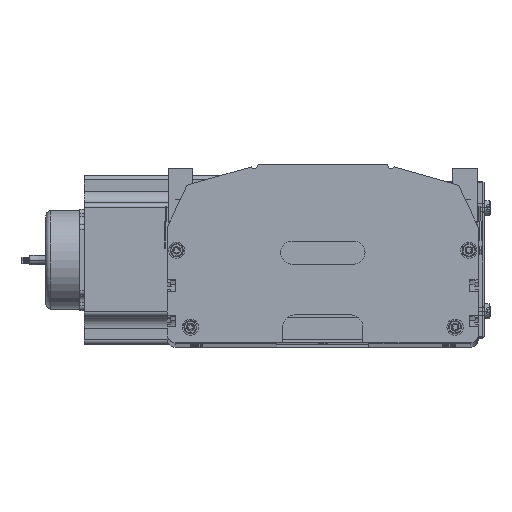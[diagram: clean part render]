
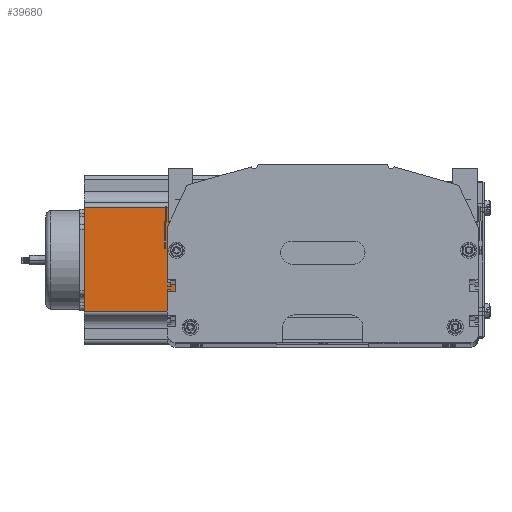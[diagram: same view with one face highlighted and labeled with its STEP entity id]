
A CAD part, top view. The second image highlights one B-rep face of the part: STEP entity #39680.
In plain terms, the highlighted planar face has unit normal (0, 0, 1) as drawn and (0, -1, 0) by its records, which use the part's own axes.
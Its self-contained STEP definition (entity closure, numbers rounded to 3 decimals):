
#39439 = ORIENTED_EDGE ( 'NONE', *, *, #39547, .T. ) ;
#39440 = EDGE_CURVE ( 'NONE', #39454, #39560, #40711, .T. ) ;
#39445 = ORIENTED_EDGE ( 'NONE', *, *, #39465, .T. ) ;
#39446 = ORIENTED_EDGE ( 'NONE', *, *, #39452, .T. ) ;
#39452 = EDGE_CURVE ( 'NONE', #39675, #39677, #41224, .T. ) ;
#39453 = ORIENTED_EDGE ( 'NONE', *, *, #39440, .F. ) ;
#39454 = VERTEX_POINT ( 'NONE', #41278 ) ;
#39465 = EDGE_CURVE ( 'NONE', #39454, #39675, #41459, .T. ) ;
#39466 = EDGE_LOOP ( 'NONE', ( #39446, #39439, #39453, #39445 ) ) ;
#39547 = EDGE_CURVE ( 'NONE', #39677, #39560, #42141, .T. ) ;
#39560 = VERTEX_POINT ( 'NONE', #42106 ) ;
#39675 = VERTEX_POINT ( 'NONE', #42410 ) ;
#39677 = VERTEX_POINT ( 'NONE', #42418 ) ;
#39680 = ADVANCED_FACE ( 'NONE', ( #42404 ), #42436, .F. ) ;
#40673 = DIRECTION ( 'NONE',  ( 1., 0., 0. ) ) ;
#40704 = VECTOR ( 'NONE', #40714, 1000. ) ;
#40710 = CARTESIAN_POINT ( 'NONE',  ( 0., 0., 160.5 ) ) ;
#40711 = LINE ( 'NONE', #40710, #40704 ) ;
#40714 = DIRECTION ( 'NONE',  ( 1., 0., 0. ) ) ;
#41085 = VECTOR ( 'NONE', #40673, 1000. ) ;
#41222 = CARTESIAN_POINT ( 'NONE',  ( 0., 0., 0. ) ) ;
#41224 = LINE ( 'NONE', #41222, #41085 ) ;
#41278 = CARTESIAN_POINT ( 'NONE',  ( 21.048, 0., 160.5 ) ) ;
#41457 = DIRECTION ( 'NONE',  ( 0., 0., -1. ) ) ;
#41459 = LINE ( 'NONE', #41530, #41545 ) ;
#41530 = CARTESIAN_POINT ( 'NONE',  ( 21.048, 0., 160.5 ) ) ;
#41545 = VECTOR ( 'NONE', #41457, 1000. ) ;
#42096 = DIRECTION ( 'NONE',  ( 0., 0., 1. ) ) ;
#42097 = VECTOR ( 'NONE', #42096, 1000. ) ;
#42106 = CARTESIAN_POINT ( 'NONE',  ( 88.952, 0., 160.5 ) ) ;
#42141 = LINE ( 'NONE', #42196, #42097 ) ;
#42196 = CARTESIAN_POINT ( 'NONE',  ( 88.952, 0., 160.5 ) ) ;
#42400 = DIRECTION ( 'NONE',  ( 0., 0., 1. ) ) ;
#42403 = AXIS2_PLACEMENT_3D ( 'NONE', #42433, #42405, #42400 ) ;
#42404 = FACE_OUTER_BOUND ( 'NONE', #39466, .T. ) ;
#42405 = DIRECTION ( 'NONE',  ( 0., 1., 0. ) ) ;
#42410 = CARTESIAN_POINT ( 'NONE',  ( 21.048, 0., 0. ) ) ;
#42418 = CARTESIAN_POINT ( 'NONE',  ( 88.952, 0., 0. ) ) ;
#42433 = CARTESIAN_POINT ( 'NONE',  ( 0., 0., 160.5 ) ) ;
#42436 = PLANE ( 'NONE',  #42403 ) ;
